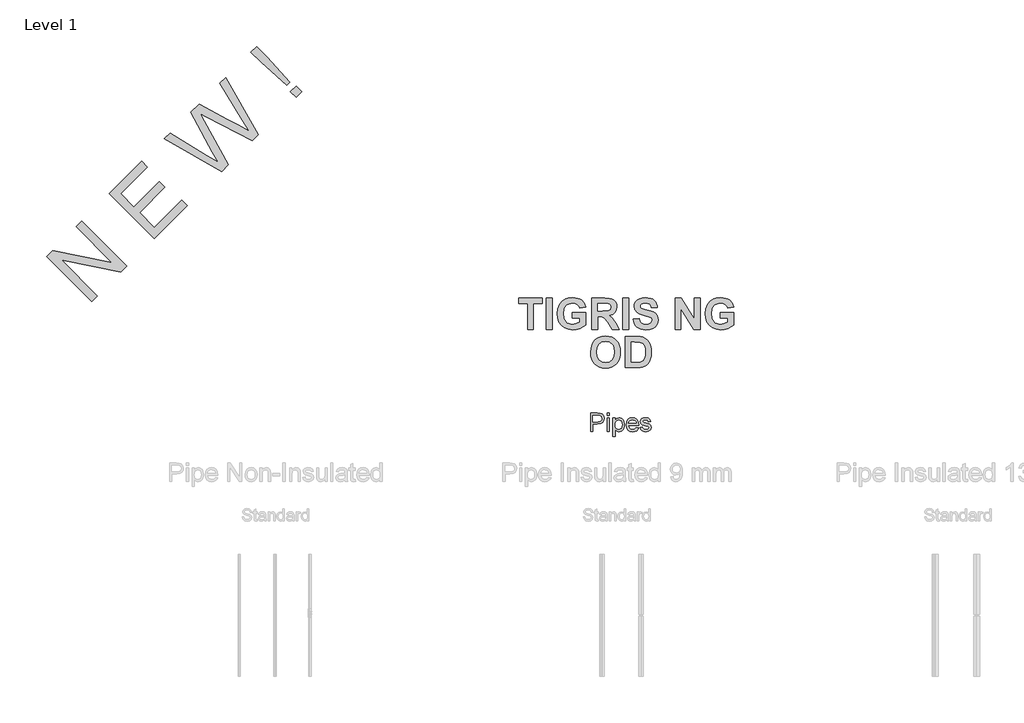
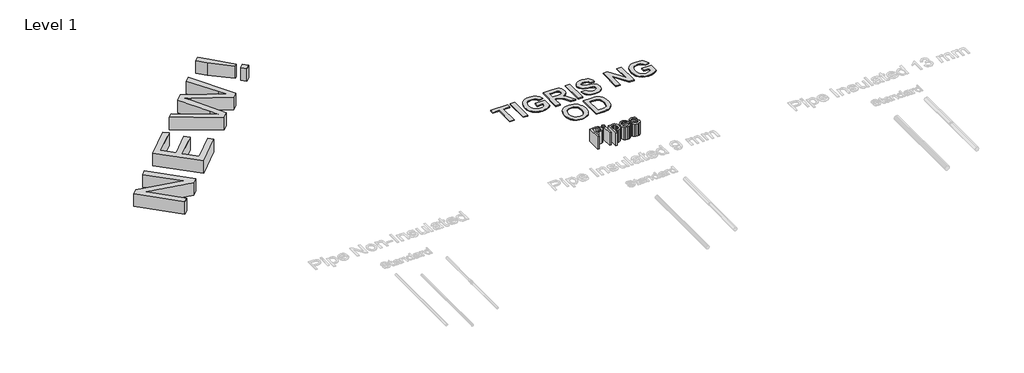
# One storey, part 2 of 2: 3 proxies.
"""IFC4 building model written with IfcOpenShell, lengths in millimetres."""

from ifc_helpers import new_model, si_unit, origin, origin_with_axes, place, context, project, spatial, polyline, outline, extrude, element, save

model = new_model("IFC4")

# Units and contexts
model_context = context("Model", 3, world=origin())
ifc_project = project(units=[si_unit("LENGTHUNIT", "METRE", prefix="MILLI")], contexts=[model_context])

# Site, building, storey
site = spatial("IfcSite", under=ifc_project)
building = spatial("IfcBuilding", under=site)
storey = spatial("IfcBuildingStorey", under=building, Name="Level 1", Elevation=0.0)

# Proxies
placement = place(None, origin())
element("IfcBuildingElementProxy", 1, Name="Rockwell 500", ObjectType="Rockwell 500", at=placement, inside=storey, context=model_context, shape_type="SweptSolid", body=[
    extrude(outline(polyline([(18905.3862887, 14735.7706926), (18535.2405467, 15105.9164346), (18584.7619985, 15155.4378864), (19071.3915933, 15055.5816742), (18778.1486899, 15348.8245777), (18824.4169076, 15395.0927954), (19194.5626495, 15024.9470535), (19145.0411977, 14975.4256017), (18658.3212353, 15075.3721814), (18951.6545064, 14782.0389104), (18905.3862887, 14735.7706926)])), origin_with_axes(), (0.0, 0.0, 1.0), 150.0),
    extrude(outline(polyline([(19420.120211, 15250.504615), (19049.9744691, 15620.6503569), (19316.0167211, 15886.6926089), (19362.2849388, 15840.4243912), (19142.5109046, 15620.6503569), (19252.3979217, 15510.7633398), (19460.6049015, 15718.9703196), (19506.8731193, 15672.7021019), (19298.6661394, 15464.495122), (19420.120211, 15343.0410505), (19645.6777725, 15568.598612), (19691.9459902, 15522.3303942), (19420.120211, 15250.504615)])), origin_with_axes(), (0.0, 0.0, 1.0), 150.0),
    extrude(outline(polyline([(19972.1759574, 15802.5603614), (19501.0895921, 16071.7654799), (19548.8036916, 16119.4795794), (19850.6315183, 15934.7681789), (19943.800527, 15877.7462153), (19896.7190008, 15963.5050798), (19718.1525979, 16288.8284858), (19786.9223513, 16357.5982391), (20022.8721882, 16228.2821852), (20113.4883119, 16183.3468898), (20198.2757246, 16132.2214128), (20142.880378, 16222.6793932), (19956.5423604, 16527.2182483), (20004.25646, 16574.9323478), (20273.3712108, 16103.7556148), (20223.9401266, 16054.3245306), (19849.6374745, 16251.1451912), (19797.4049943, 16278.6169455), (19831.4735844, 16216.7151308), (20028.0231421, 15858.4075461), (19972.1759574, 15802.5603614)])), origin_with_axes(), (0.0, 0.0, 1.0), 150.0),
    extrude(outline(polyline([(20507.4233279, 16511.3135484), (20296.0534816, 16699.5492858), (20212.4634398, 16783.1393276), (20258.7316576, 16829.4075454), (20342.3216994, 16745.8175036), (20530.5574368, 16534.4476573), (20507.4233279, 16511.3135484)])), origin_with_axes(), (0.0, 0.0, 1.0), 150.0),
    extrude(outline(polyline([(20582.6091817, 16412.9935857), (20536.340964, 16459.2618035), (20582.6091817, 16505.5300212), (20628.8773995, 16459.2618035), (20582.6091817, 16412.9935857)])), origin_with_axes(), (0.0, 0.0, 1.0), 150.0),
])
element("IfcBuildingElementProxy", 2, Name="Arial 150", ObjectType="Arial 150", at=placement, inside=storey, context=model_context, shape_type="SweptSolid", body=[
    extrude(outline(polyline([(22999.805003, 13667.7378483), (22999.805003, 13818.4223135), (23055.6494899, 13818.4223135), (23078.163868, 13816.9875737), (23096.4659973, 13809.9426335), (23108.3301916, 13795.3745065), (23112.818352, 13774.8282971), (23109.787924, 13757.0687938), (23100.6966402, 13742.2707405), (23083.6958935, 13732.2827443), (23056.9370769, 13728.9534123), (23018.6405612, 13728.9534123), (23018.6405612, 13667.7378483), (22999.805003, 13667.7378483)]), holes=[polyline([(23018.6405612, 13747.7889704), (23058.0407229, 13747.7889704), (23074.7425655, 13749.5180158), (23085.7790253, 13754.7051519), (23091.9318517, 13763.0284821), (23093.9827938, 13774.1661095), (23089.1451456, 13789.7643061), (23076.4348226, 13798.2991684), (23057.5992645, 13799.5867553), (23018.6405612, 13799.5867553), (23018.6405612, 13747.7889704)])]), origin_with_axes(), (0.0, 0.0, 1.0), 150.0),
    extrude(outline(polyline([(23136.3627996, 13667.7378483), (23136.3627996, 13778.3967524), (23155.1983578, 13778.3967524), (23155.1983578, 13667.7378483), (23136.3627996, 13667.7378483)])), origin_with_axes(), (0.0, 0.0, 1.0), 150.0),
    extrude(outline(polyline([(23136.3627996, 13799.5867553), (23136.3627996, 13818.4223135), (23155.1983578, 13818.4223135), (23155.1983578, 13799.5867553), (23136.3627996, 13799.5867553)])), origin_with_axes(), (0.0, 0.0, 1.0), 150.0),
    extrude(outline(polyline([(23183.451695, 13625.3578424), (23183.451695, 13778.3967524), (23202.2872532, 13778.3967524), (23202.2872532, 13759.9290763), (23215.3102758, 13775.545667), (23232.8950352, 13780.7511972), (23245.6329493, 13778.9301813), (23256.7705767, 13773.4671337), (23265.8388678, 13764.6931481), (23272.3687733, 13752.9393184), (23277.6294858, 13723.9134289), (23276.1441622, 13707.8047961), (23271.6881916, 13693.3976174), (23264.4041281, 13681.4230585), (23254.434526, 13672.6122847), (23242.8232505, 13667.1906238), (23230.6141668, 13665.3834035), (23214.2250239, 13670.2210517), (23202.2872532, 13682.4531281), (23202.2872532, 13625.3578424), (23183.451695, 13625.3578424)]), holes=[polyline([(23202.2872532, 13722.1843836), (23204.3243997, 13705.2986), (23210.4358394, 13693.4895879), (23219.4535468, 13686.5366182), (23230.2094966, 13684.2189617), (23241.1401904, 13686.6193917), (23250.387824, 13693.8206817), (23256.6924017, 13706.0619551), (23258.7939276, 13723.5823351), (23256.7429855, 13740.3761482), (23250.5901591, 13752.3507072), (23241.5862473, 13759.5244061), (23230.9820488, 13761.915639), (23220.3364636, 13759.3726548), (23210.9876624, 13751.7437019), (23204.4623555, 13739.2679037), (23202.2872532, 13722.1843836)])]), origin_with_axes(), (0.0, 0.0, 1.0), 150.0),
    extrude(outline(polyline([(23376.2954369, 13700.700075), (23394.7631131, 13698.3456303), (23388.1090475, 13684.4304938), (23377.4910534, 13674.0286304), (23363.1482541, 13667.5447102), (23345.3197729, 13665.3834035), (23323.219262, 13669.1128072), (23306.2139168, 13680.3010184), (23295.370595, 13698.2214701), (23291.7561544, 13722.1475954), (23295.4073832, 13746.8784625), (23306.3610696, 13765.3737298), (23323.1364886, 13776.9068303), (23344.2529151, 13780.7511972), (23364.7117526, 13776.9160274), (23381.0595087, 13765.410518), (23391.7786704, 13746.9520389), (23395.3517242, 13722.25796), (23395.2413596, 13717.1811884), (23310.5917126, 13717.1811884), (23313.8520667, 13703.082111), (23321.4258373, 13692.7170358), (23332.3565311, 13686.3434802), (23345.6876549, 13684.2189617), (23364.1553311, 13688.155299), (23376.2954369, 13700.700075)]), holes=[polyline([(23310.5917126, 13736.0167466), (23376.5161661, 13736.0167466), (23373.9685833, 13745.9679546), (23368.9745852, 13753.0864712), (23357.9933076, 13759.7083471), (23344.1793387, 13761.915639), (23331.4828114, 13760.154404), (23320.9843789, 13754.8706988), (23313.6865198, 13746.6347407), (23310.5917126, 13736.0167466)])]), origin_with_axes(), (0.0, 0.0, 1.0), 150.0),
    extrude(outline(polyline([(23407.1239481, 13700.700075), (23425.9595062, 13703.0545198), (23428.9301534, 13694.9979041), (23434.6783095, 13689.075004), (23454.6543019, 13684.2189617), (23473.857742, 13688.6703338), (23480.1117359, 13699.1181825), (23478.5390404, 13703.9190425), (23473.8209538, 13707.5794684), (23454.4335727, 13712.9505455), (23426.0698708, 13722.1659895), (23413.6906417, 13732.9265378), (23409.4783929, 13748.1200642), (23412.8629072, 13762.1547623), (23422.0967453, 13772.8785225), (23434.0713042, 13778.4519347), (23450.2765061, 13780.7511972), (23473.1955544, 13777.0539831), (23487.7636814, 13767.0475929), (23494.2384046, 13750.1434152), (23475.4028464, 13747.7889704), (23468.321118, 13758.1816368), (23451.7480341, 13761.915639), (23433.7218163, 13758.3471837), (23428.313951, 13750.0330506), (23430.5580312, 13744.5516089), (23437.5845773, 13740.3945423), (23453.8081733, 13736.3846286), (23481.4545052, 13727.5186725), (23494.2935869, 13717.475494), (23498.9472941, 13701.1047452), (23493.4842465, 13683.0785275), (23477.720503, 13670.0003225), (23454.3967845, 13665.3834035), (23435.4048765, 13667.6090896), (23421.5449223, 13674.2861478), (23412.2926901, 13685.3410017), (23407.1239481, 13700.700075)])), origin_with_axes(), (0.0, 0.0, 1.0), 150.0),
])
element("IfcBuildingElementProxy", 3, Name="Arial 250", ObjectType="Arial 250", at=placement, inside=storey, context=model_context, shape_type="SweptSolid", body=[
    extrude(outline(polyline([(22483.1737548, 14507.0375608), (22483.1737548, 14717.5672782), (22410.2980834, 14717.5672782), (22410.2980834, 14762.1024108), (22604.6332072, 14762.1024108), (22604.6332072, 14717.5672782), (22531.7575357, 14717.5672782), (22531.7575357, 14507.0375608), (22483.1737548, 14507.0375608)])), origin_with_axes(), (0.0, 0.0, 1.0), 10.0),
    extrude(outline(polyline([(22637.0223945, 14507.0375608), (22637.0223945, 14762.1024108), (22685.6061754, 14762.1024108), (22685.6061754, 14507.0375608), (22637.0223945, 14507.0375608)])), origin_with_axes(), (0.0, 0.0, 1.0), 10.0),
    extrude(outline(polyline([(22851.6007603, 14600.1564743), (22851.6007603, 14644.6916068), (22960.9142675, 14644.6916068), (22960.9142675, 14542.9693154), (22941.3985169, 14528.0478319), (22914.7343715, 14515.0399674), (22884.3062483, 14506.0016761), (22853.4985643, 14502.9889124), (22816.6653527, 14507.1798961), (22784.8613216, 14519.7528472), (22759.2093383, 14540.114702), (22740.8322702, 14567.6723968), (22729.7775622, 14600.1960118), (22726.0926595, 14635.4556276), (22730.2599207, 14672.9767931), (22742.7617042, 14706.0855644), (22763.2975243, 14733.3902186), (22791.5668956, 14753.4990329), (22819.0534227, 14762.9880526), (22852.5496623, 14766.1510592), (22894.7520775, 14761.0428036), (22911.9687176, 14754.657484), (22926.5956461, 14745.7180367), (22948.5073742, 14721.3787011), (22960.9142675, 14689.2267393), (22912.3304865, 14681.1294425), (22904.1541145, 14697.9329149), (22891.0118222, 14710.7668141), (22873.4413207, 14718.9036485), (22851.9803211, 14721.6159266), (22820.17629, 14716.3178906), (22806.9905064, 14709.6953456), (22795.615544, 14700.4237826), (22786.4546862, 14688.5427392), (22779.9112164, 14674.0917529), (22774.6764405, 14637.4799518), (22779.8795863, 14598.1242425), (22786.3835186, 14582.663071), (22795.4890237, 14570.0130216), (22806.7058358, 14560.1740943), (22819.5436887, 14553.1462891), (22850.0825172, 14547.5240449), (22883.5154966, 14553.6919077), (22912.3304865, 14568.6529288), (22912.3304865, 14600.1564743), (22851.6007603, 14600.1564743)])), origin_with_axes(), (0.0, 0.0, 1.0), 10.0),
    extrude(outline(polyline([(23009.4980484, 14507.0375608), (23009.4980484, 14762.1024108), (23116.7872313, 14762.1024108), (23151.738454, 14760.3785722), (23175.6191536, 14755.2070564), (23192.1300479, 14745.6231465), (23204.9718546, 14730.6621254), (23213.2273017, 14711.7315311), (23215.9791174, 14690.2389014), (23212.0016367, 14663.9068717), (23200.0691944, 14642.6040225), (23180.2134206, 14627.2950706), (23152.4659455, 14618.9447333), (23177.9597784, 14597.6893291), (23205.0351147, 14556.5069836), (23236.2223595, 14507.0375608), (23179.4780216, 14507.0375608), (23142.5341048, 14565.3001418), (23113.5293346, 14599.8718037), (23096.9551801, 14609.645494), (23069.2156125, 14612.3024195), (23058.0818294, 14612.3024195), (23058.0818294, 14507.0375608), (23009.4980484, 14507.0375608)]), holes=[polyline([(23058.0818294, 14656.837552), (23098.1254926, 14656.837552), (23146.7409036, 14659.7791481), (23161.9233351, 14669.9007692), (23167.3953365, 14687.8350164), (23165.5924227, 14698.7552966), (23160.1836815, 14707.350767), (23151.4854134, 14713.4158321), (23139.8139192, 14716.7448965), (23100.3395972, 14717.5672782), (23058.0818294, 14717.5672782), (23058.0818294, 14656.837552)])]), origin_with_axes(), (0.0, 0.0, 1.0), 10.0),
    extrude(outline(polyline([(23264.5628984, 14507.0375608), (23264.5628984, 14762.1024108), (23313.1466793, 14762.1024108), (23313.1466793, 14507.0375608), (23264.5628984, 14507.0375608)])), origin_with_axes(), (0.0, 0.0, 1.0), 10.0),
    extrude(outline(polyline([(23349.5845151, 14592.0591774), (23398.168296, 14596.1078258), (23405.2534307, 14574.3779707), (23417.1463354, 14559.2904293), (23433.9260853, 14550.465641), (23455.6717555, 14547.5240449), (23478.2398074, 14550.1256178), (23494.4502161, 14557.9303365), (23504.2239064, 14569.2143625), (23507.4818031, 14582.2538571), (23502.0730619, 14597.4679187), (23483.1266525, 14608.3802913), (23440.995405, 14619.1977738), (23405.0320203, 14630.3790021), (23381.6574017, 14644.0590055), (23363.6757093, 14667.3545489), (23357.6818119, 14695.2364518), (23360.4336276, 14714.0247109), (23368.6890748, 14731.5477673), (23382.1318527, 14746.4297132), (23400.4456607, 14757.2946408), (23423.3300133, 14763.9369546), (23450.4844247, 14766.1510592), (23492.4496144, 14760.6316127), (23508.9901619, 14753.7323046), (23522.5693445, 14744.0732733), (23533.2306535, 14732.1131547), (23541.0175803, 14718.3105848), (23545.9301249, 14702.6655635), (23547.9682873, 14685.1780909), (23499.3845063, 14685.1780909), (23494.0153027, 14701.8708581), (23484.7397859, 14713.1074389), (23470.7039442, 14719.4888047), (23451.0537659, 14721.6159266), (23430.3677029, 14719.3543769), (23414.7424504, 14712.5697278), (23408.3848072, 14705.7692637), (23406.2655928, 14697.0077355), (23408.1950268, 14688.7364733), (23413.9833289, 14681.7620438), (23430.7868013, 14673.5935793), (23461.5865778, 14665.1562593), (23494.4581236, 14656.3789161), (23517.4769039, 14647.190382), (23533.6082374, 14636.0645064), (23545.8174428, 14621.4751385), (23553.5035488, 14603.2404057), (23556.0655841, 14581.1784348), (23553.0370053, 14560.112811), (23543.9512689, 14540.4389102), (23529.3223635, 14523.8963858), (23509.6642777, 14512.2248915), (23484.7635084, 14505.2979071), (23454.4065529, 14502.9889124), (23431.7040732, 14504.4102884), (23411.8008543, 14508.6744167), (23394.6968963, 14515.7812971), (23380.3921991, 14525.7309296), (23368.7879187, 14538.4047016), (23359.7852113, 14553.6840002), (23353.3840767, 14571.5688255), (23349.5845151, 14592.0591774)])), origin_with_axes(), (0.0, 0.0, 1.0), 10.0),
    extrude(outline(polyline([(23693.7196301, 14507.0375608), (23693.7196301, 14762.1024108), (23744.6440359, 14762.1024108), (23851.6169182, 14590.414414), (23851.6169182, 14762.1024108), (23900.2006992, 14762.1024108), (23900.2006992, 14507.0375608), (23847.6947901, 14507.0375608), (23742.3034111, 14676.1951522), (23742.3034111, 14507.0375608), (23693.7196301, 14507.0375608)])), origin_with_axes(), (0.0, 0.0, 1.0), 10.0),
    extrude(outline(polyline([(24066.1952841, 14600.1564743), (24066.1952841, 14644.6916068), (24175.5087912, 14644.6916068), (24175.5087912, 14542.9693154), (24155.9930407, 14528.0478319), (24129.3288953, 14515.0399674), (24098.900772, 14506.0016761), (24068.093088, 14502.9889124), (24031.2598765, 14507.1798961), (23999.4558454, 14519.7528472), (23973.8038621, 14540.114702), (23955.4267939, 14567.6723968), (23944.3720859, 14600.1960118), (23940.6871833, 14635.4556276), (23944.8544444, 14672.9767931), (23957.3562279, 14706.0855644), (23977.8920481, 14733.3902186), (24006.1614193, 14753.4990329), (24033.6479464, 14762.9880526), (24067.144186, 14766.1510592), (24109.3466012, 14761.0428036), (24126.5632414, 14754.657484), (24141.1901699, 14745.7180367), (24163.1018979, 14721.3787011), (24175.5087912, 14689.2267393), (24126.9250103, 14681.1294425), (24118.7486383, 14697.9329149), (24105.606346, 14710.7668141), (24088.0358445, 14718.9036485), (24066.5748449, 14721.6159266), (24034.7708138, 14716.3178906), (24021.5850301, 14709.6953456), (24010.2100677, 14700.4237826), (24001.04921, 14688.5427392), (23994.5057401, 14674.0917529), (23989.2709642, 14637.4799518), (23994.47411, 14598.1242425), (24000.9780423, 14582.663071), (24010.0835475, 14570.0130216), (24021.3003595, 14560.1740943), (24034.1382125, 14553.1462891), (24064.6770409, 14547.5240449), (24098.1100204, 14553.6919077), (24126.9250103, 14568.6529288), (24126.9250103, 14600.1564743), (24066.1952841, 14600.1564743)])), origin_with_axes(), (0.0, 0.0, 1.0), 10.0),
    extrude(outline(polyline([(23001.4007516, 14318.2101079), (23004.2632725, 14353.9837122), (23012.8508354, 14383.4945635), (23022.9487339, 14401.9269843), (23036.1621938, 14418.382526), (23051.6372035, 14431.8490265), (23068.519751, 14441.3143237), (23093.7289134, 14448.8580943), (23122.5439033, 14451.3726846), (23148.8363954, 14449.1921869), (23172.3612568, 14442.6506939), (23193.1184874, 14431.7482057), (23211.1080873, 14416.4847221), (23225.6381488, 14397.3386479), (23236.0167641, 14374.7883879), (23242.2439333, 14348.8339421), (23244.3196563, 14319.4753105), (23242.2597483, 14290.3163437), (23236.0800242, 14264.5180713), (23225.7804841, 14242.0804934), (23211.3611278, 14223.00361), (23193.4901407, 14207.7816409), (23172.8357078, 14196.9088058), (23149.3978291, 14190.3851048), (23123.1765046, 14188.2105378), (23096.6784171, 14190.3752204), (23073.0428504, 14196.8692682), (23052.2698048, 14207.6926814), (23034.3592801, 14222.8454597), (23019.9399239, 14241.793846), (23009.6403837, 14264.0040827), (23003.4606596, 14289.47617), (23001.4007516, 14318.2101079)]), holes=[polyline([(23049.9845325, 14319.9813916), (23055.1481408, 14282.2309081), (23061.602651, 14267.2580258), (23070.6389654, 14254.8867163), (23094.0847517, 14238.2809318), (23123.1132445, 14232.7456703), (23152.0784772, 14238.2413942), (23175.334483, 14254.728566), (23184.2600922, 14267.0939448), (23190.6355273, 14282.2071856), (23195.7358754, 14320.677253), (23190.7699551, 14358.5700717), (23184.5625547, 14373.3887575), (23175.8721941, 14385.4556276), (23152.7506161, 14401.4920709), (23123.1132445, 14406.837552), (23093.4126128, 14401.4288108), (23070.1012543, 14385.2025871), (23061.3001885, 14373.0131505), (23055.013713, 14358.0798057), (23049.9845325, 14319.9813916)])]), origin_with_axes(), (0.0, 0.0, 1.0), 10.0),
    extrude(outline(polyline([(23284.8061405, 14447.3240362), (23379.2535167, 14447.3240362), (23407.4042752, 14446.1062786), (23427.9638179, 14442.453006), (23448.8712914, 14433.2565644), (23466.5524981, 14418.9518672), (23480.699045, 14400.1952382), (23491.0025389, 14377.6430014), (23497.2890145, 14350.3383471), (23499.3845063, 14317.324466), (23497.4234422, 14288.0350252), (23491.54025, 14263.0472733), (23479.8687558, 14237.8697409), (23464.085353, 14218.0060597), (23448.3019502, 14206.3978255), (23427.7740375, 14197.6362973), (23407.799651, 14193.603464), (23382.0369625, 14192.2591862), (23284.8061405, 14192.2591862), (23284.8061405, 14447.3240362)]), holes=[polyline([(23333.3899214, 14402.7889036), (23333.3899214, 14236.7943187), (23374.7620474, 14236.7943187), (23408.289917, 14239.1982037), (23430.6523735, 14249.6044953), (23438.7259478, 14259.338648), (23445.1705737, 14273.8014956), (23449.3931874, 14293.6968069), (23450.8007254, 14319.728351), (23449.3931874, 14345.3961494), (23445.1705737, 14364.3267437), (23438.4254622, 14378.1807125), (23429.450431, 14388.6186342), (23417.9924397, 14395.9251794), (23403.7984477, 14400.3850186), (23358.3144132, 14402.7889036), (23333.3899214, 14402.7889036)])]), origin_with_axes(), (0.0, 0.0, 1.0), 10.0),
])

save(model, "model.ifc")
